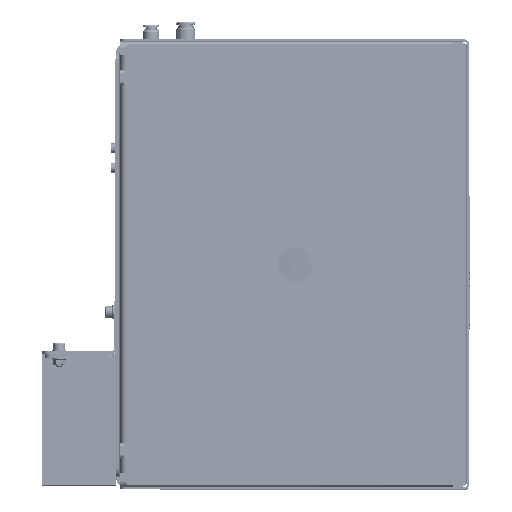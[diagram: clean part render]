
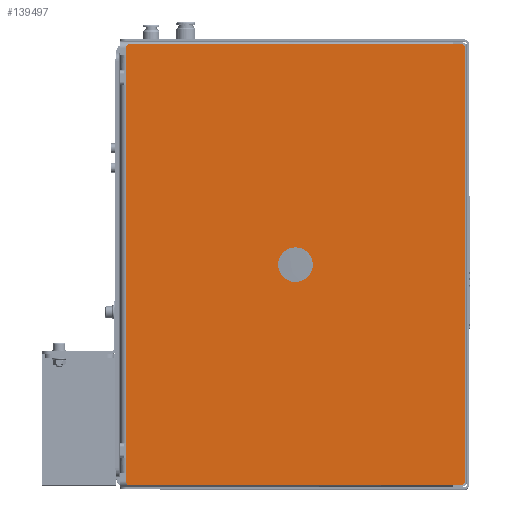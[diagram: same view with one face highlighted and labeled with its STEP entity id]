
A CAD part, top view. The second image highlights one B-rep face of the part: STEP entity #139497.
In plain terms, the highlighted planar face has unit normal (0, 0, 1).
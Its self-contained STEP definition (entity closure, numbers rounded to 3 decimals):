
#6727=CIRCLE('',#147673,3.);
#6728=CIRCLE('',#147674,3.);
#6729=CIRCLE('',#147675,3.);
#6730=CIRCLE('',#147676,3.);
#6731=CIRCLE('',#147677,12.5);
#6732=CIRCLE('',#147678,12.5);
#13849=FACE_BOUND('',#22900,.T.);
#15056=FACE_OUTER_BOUND('',#22899,.T.);
#22899=EDGE_LOOP('',(#88202,#88203,#88204,#88205,#88206,#88207,#88208,#88209));
#22900=EDGE_LOOP('',(#88210,#88211));
#31821=LINE('',#197972,#42560);
#31822=LINE('',#197976,#42561);
#31823=LINE('',#197980,#42562);
#31824=LINE('',#197983,#42563);
#42560=VECTOR('',#160910,10.);
#42561=VECTOR('',#160913,10.);
#42562=VECTOR('',#160916,10.);
#42563=VECTOR('',#160919,10.);
#53425=VERTEX_POINT('',#197968);
#53426=VERTEX_POINT('',#197969);
#53427=VERTEX_POINT('',#197971);
#53428=VERTEX_POINT('',#197973);
#53429=VERTEX_POINT('',#197975);
#53430=VERTEX_POINT('',#197977);
#53431=VERTEX_POINT('',#197979);
#53432=VERTEX_POINT('',#197981);
#53433=VERTEX_POINT('',#197984);
#53434=VERTEX_POINT('',#197985);
#67148=EDGE_CURVE('',#53425,#53426,#6727,.T.);
#67149=EDGE_CURVE('',#53427,#53425,#31821,.T.);
#67150=EDGE_CURVE('',#53428,#53427,#6728,.T.);
#67151=EDGE_CURVE('',#53429,#53428,#31822,.T.);
#67152=EDGE_CURVE('',#53430,#53429,#6729,.T.);
#67153=EDGE_CURVE('',#53431,#53430,#31823,.T.);
#67154=EDGE_CURVE('',#53432,#53431,#6730,.T.);
#67155=EDGE_CURVE('',#53426,#53432,#31824,.T.);
#67156=EDGE_CURVE('',#53433,#53434,#6731,.T.);
#67157=EDGE_CURVE('',#53434,#53433,#6732,.T.);
#88202=ORIENTED_EDGE('',*,*,#67148,.F.);
#88203=ORIENTED_EDGE('',*,*,#67149,.F.);
#88204=ORIENTED_EDGE('',*,*,#67150,.F.);
#88205=ORIENTED_EDGE('',*,*,#67151,.F.);
#88206=ORIENTED_EDGE('',*,*,#67152,.F.);
#88207=ORIENTED_EDGE('',*,*,#67153,.F.);
#88208=ORIENTED_EDGE('',*,*,#67154,.F.);
#88209=ORIENTED_EDGE('',*,*,#67155,.F.);
#88210=ORIENTED_EDGE('',*,*,#67156,.T.);
#88211=ORIENTED_EDGE('',*,*,#67157,.T.);
#128245=PLANE('',#147672);
#139497=ADVANCED_FACE('',(#15056,#13849),#128245,.T.);
#147672=AXIS2_PLACEMENT_3D('',#197967,#160906,#160907);
#147673=AXIS2_PLACEMENT_3D('',#197970,#160908,#160909);
#147674=AXIS2_PLACEMENT_3D('',#197974,#160911,#160912);
#147675=AXIS2_PLACEMENT_3D('',#197978,#160914,#160915);
#147676=AXIS2_PLACEMENT_3D('',#197982,#160917,#160918);
#147677=AXIS2_PLACEMENT_3D('',#197986,#160920,#160921);
#147678=AXIS2_PLACEMENT_3D('',#197987,#160922,#160923);
#160906=DIRECTION('center_axis',(0.,0.,
1.));
#160907=DIRECTION('ref_axis',(1.,0.,0.));
#160908=DIRECTION('center_axis',(0.,0.,
-1.));
#160909=DIRECTION('ref_axis',(0.707,0.707,0.));
#160910=DIRECTION('',(1.,0.,0.));
#160911=DIRECTION('center_axis',(0.,0.,
-1.));
#160912=DIRECTION('ref_axis',(-0.707,0.707,0.));
#160913=DIRECTION('',(0.,1.,0.));
#160914=DIRECTION('center_axis',(0.,0.,
-1.));
#160915=DIRECTION('ref_axis',(-0.707,-0.707,0.));
#160916=DIRECTION('',(-1.,0.,0.));
#160917=DIRECTION('center_axis',(0.,0.,
-1.));
#160918=DIRECTION('ref_axis',(0.707,-0.707,0.));
#160919=DIRECTION('',(0.,-1.,0.));
#160920=DIRECTION('center_axis',(0.,0.,
-1.));
#160921=DIRECTION('ref_axis',(1.,0.,0.));
#160922=DIRECTION('center_axis',(0.,0.,
-1.));
#160923=DIRECTION('ref_axis',(1.,0.,0.));
#197967=CARTESIAN_POINT('Origin',(74.706,-31.839,250.5));
#197968=CARTESIAN_POINT('',(193.956,127.411,250.5));
#197969=CARTESIAN_POINT('',(196.956,124.411,250.5));
#197970=CARTESIAN_POINT('Origin',(193.956,124.411,250.5));
#197971=CARTESIAN_POINT('',(-44.544,127.411,250.5));
#197972=CARTESIAN_POINT('',(196.956,127.411,250.5));
#197973=CARTESIAN_POINT('',(-47.544,124.411,250.5));
#197974=CARTESIAN_POINT('Origin',(-44.544,124.411,250.5));
#197975=CARTESIAN_POINT('',(-47.544,-188.089,250.5));
#197976=CARTESIAN_POINT('',(-47.544,127.411,250.5));
#197977=CARTESIAN_POINT('',(-44.544,-191.089,250.5));
#197978=CARTESIAN_POINT('Origin',(-44.544,-188.089,250.5));
#197979=CARTESIAN_POINT('',(193.956,-191.089,250.5));
#197980=CARTESIAN_POINT('',(-47.544,-191.089,250.5));
#197981=CARTESIAN_POINT('',(196.956,-188.089,250.5));
#197982=CARTESIAN_POINT('Origin',(193.956,-188.089,250.5));
#197983=CARTESIAN_POINT('',(196.956,-191.089,250.5));
#197984=CARTESIAN_POINT('',(87.206,-31.839,250.5));
#197985=CARTESIAN_POINT('',(62.206,-31.839,250.5));
#197986=CARTESIAN_POINT('Origin',(74.706,-31.839,250.5));
#197987=CARTESIAN_POINT('Origin',(74.706,-31.839,250.5));
